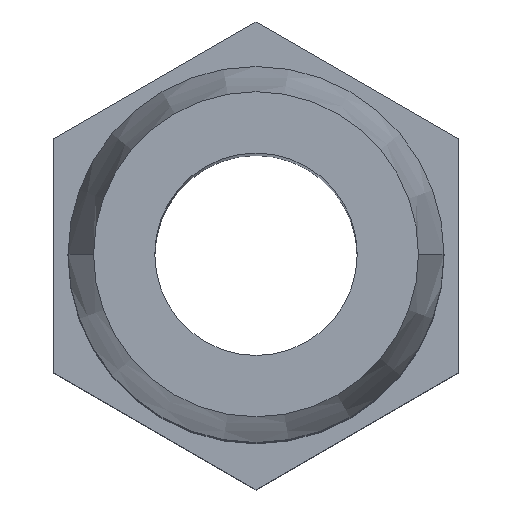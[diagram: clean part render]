
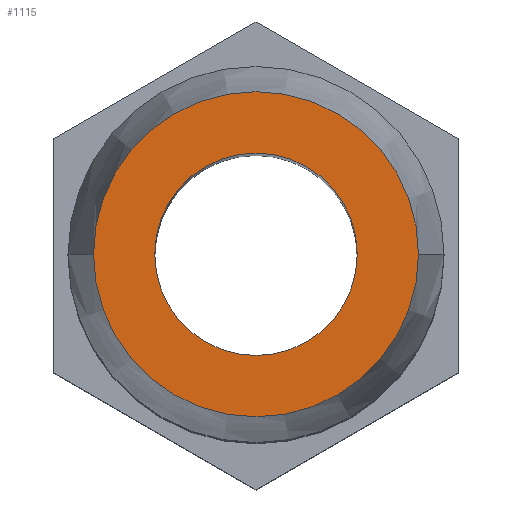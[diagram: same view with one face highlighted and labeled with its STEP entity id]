
A CAD part, top view. The second image highlights one B-rep face of the part: STEP entity #1115.
In plain terms, the highlighted planar face has unit normal (0, 0, 1).
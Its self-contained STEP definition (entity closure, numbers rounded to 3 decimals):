
#16 = AXIS2_PLACEMENT_3D ( 'NONE', #911, #907, #902 ) ;
#25 = CIRCLE ( 'NONE', #367, 5.618 ) ;
#39 = ORIENTED_EDGE ( 'NONE', *, *, #700, .F. ) ;
#40 = CARTESIAN_POINT ( 'NONE',  ( 0., 0., 38. ) ) ;
#89 = ORIENTED_EDGE ( 'NONE', *, *, #963, .T. ) ;
#269 = CARTESIAN_POINT ( 'NONE',  ( 0., 0., 38. ) ) ;
#367 = AXIS2_PLACEMENT_3D ( 'NONE', #719, #617, #1026 ) ;
#406 = EDGE_LOOP ( 'NONE', ( #89, #1394 ) ) ;
#408 = DIRECTION ( 'NONE',  ( 1., 0., 0. ) ) ;
#412 = DIRECTION ( 'NONE',  ( 0., 0., 1. ) ) ;
#424 = CARTESIAN_POINT ( 'NONE',  ( 0., 0., 38. ) ) ;
#470 = EDGE_CURVE ( 'NONE', #1277, #1364, #850, .T. ) ;
#565 = VERTEX_POINT ( 'NONE', #834 ) ;
#580 = VERTEX_POINT ( 'NONE', #669 ) ;
#612 = ORIENTED_EDGE ( 'NONE', *, *, #743, .F. ) ;
#617 = DIRECTION ( 'NONE',  ( 0., 0., 1. ) ) ;
#632 = CIRCLE ( 'NONE', #883, 3.5 ) ;
#633 = CARTESIAN_POINT ( 'NONE',  ( -5.618, 0., 38. ) ) ;
#669 = CARTESIAN_POINT ( 'NONE',  ( -3.5, 0., 38. ) ) ;
#674 = CARTESIAN_POINT ( 'NONE',  ( 5.618, 0., 38. ) ) ;
#700 = EDGE_CURVE ( 'NONE', #580, #565, #789, .T. ) ;
#702 = DIRECTION ( 'NONE',  ( 1., 0., 0. ) ) ;
#719 = CARTESIAN_POINT ( 'NONE',  ( 0., 0., 38. ) ) ;
#743 = EDGE_CURVE ( 'NONE', #565, #580, #632, .T. ) ;
#789 = CIRCLE ( 'NONE', #905, 3.5 ) ;
#806 = DIRECTION ( 'NONE',  ( 0., 0., 1. ) ) ;
#834 = CARTESIAN_POINT ( 'NONE',  ( 3.5, 0., 38. ) ) ;
#850 = CIRCLE ( 'NONE', #1213, 5.618 ) ;
#883 = AXIS2_PLACEMENT_3D ( 'NONE', #424, #412, #408 ) ;
#902 = DIRECTION ( 'NONE',  ( -1., 0., 0. ) ) ;
#905 = AXIS2_PLACEMENT_3D ( 'NONE', #269, #806, #702 ) ;
#907 = DIRECTION ( 'NONE',  ( 0., 0., -1. ) ) ;
#911 = CARTESIAN_POINT ( 'NONE',  ( 0., 5.618, 38. ) ) ;
#963 = EDGE_CURVE ( 'NONE', #1364, #1277, #25, .T. ) ;
#1026 = DIRECTION ( 'NONE',  ( 1., 0., 0. ) ) ;
#1034 = PLANE ( 'NONE',  #16 ) ;
#1115 = ADVANCED_FACE ( 'NONE', ( #1119, #1207 ), #1034, .F. ) ;
#1119 = FACE_BOUND ( 'NONE', #1336, .T. ) ;
#1207 = FACE_OUTER_BOUND ( 'NONE', #406, .T. ) ;
#1213 = AXIS2_PLACEMENT_3D ( 'NONE', #40, #1402, #1398 ) ;
#1277 = VERTEX_POINT ( 'NONE', #674 ) ;
#1336 = EDGE_LOOP ( 'NONE', ( #612, #39 ) ) ;
#1364 = VERTEX_POINT ( 'NONE', #633 ) ;
#1394 = ORIENTED_EDGE ( 'NONE', *, *, #470, .T. ) ;
#1398 = DIRECTION ( 'NONE',  ( 1., 0., 0. ) ) ;
#1402 = DIRECTION ( 'NONE',  ( 0., 0., 1. ) ) ;
